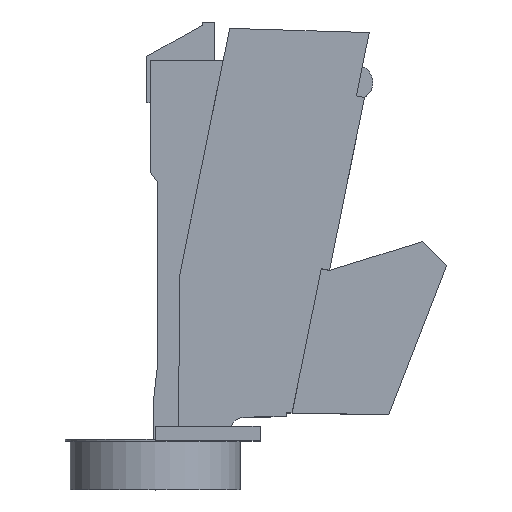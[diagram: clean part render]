
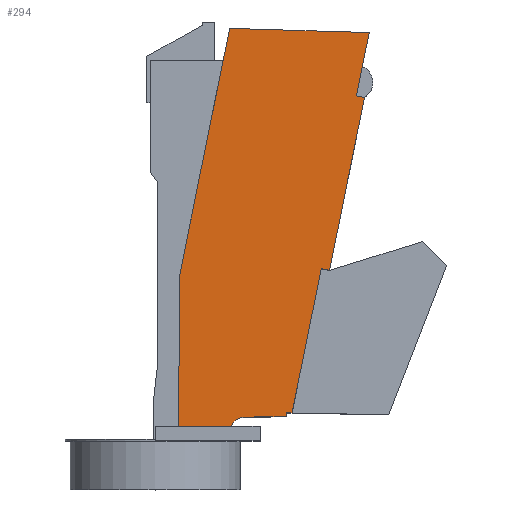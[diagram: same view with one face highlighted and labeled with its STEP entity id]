
A CAD part, top view. The second image highlights one B-rep face of the part: STEP entity #294.
In plain terms, the highlighted planar face has unit normal (0, 0, 1).
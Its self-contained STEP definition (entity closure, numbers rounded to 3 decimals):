
#294 = ADVANCED_FACE ( 'NONE', ( #613 ), #1653, .F. ) ;
#306 = LINE ( 'NONE', #978, #319 ) ;
#310 = LINE ( 'NONE', #969, #311 ) ;
#311 = VECTOR ( 'NONE', #970, 1000. ) ;
#319 = VECTOR ( 'NONE', #979, 1000. ) ;
#358 = VECTOR ( 'NONE', #936, 1000. ) ;
#359 = LINE ( 'NONE', #935, #358 ) ;
#576 = VECTOR ( 'NONE', #1742, 1000. ) ;
#582 = VECTOR ( 'NONE', #1736, 1000. ) ;
#583 = VECTOR ( 'NONE', #1734, 1000. ) ;
#584 = LINE ( 'NONE', #1733, #583 ) ;
#585 = VECTOR ( 'NONE', #1732, 1000. ) ;
#586 = LINE ( 'NONE', #1731, #585 ) ;
#587 = VECTOR ( 'NONE', #1730, 1000. ) ;
#588 = LINE ( 'NONE', #1729, #587 ) ;
#589 = VECTOR ( 'NONE', #1728, 1000. ) ;
#590 = LINE ( 'NONE', #1727, #589 ) ;
#591 = VECTOR ( 'NONE', #1726, 1000. ) ;
#592 = LINE ( 'NONE', #1725, #591 ) ;
#593 = VECTOR ( 'NONE', #1724, 1000. ) ;
#594 = LINE ( 'NONE', #1723, #593 ) ;
#596 = CIRCLE ( 'NONE', #1296, 3. ) ;
#597 = LINE ( 'NONE', #1735, #576 ) ;
#603 = VECTOR ( 'NONE', #1722, 1000. ) ;
#610 = LINE ( 'NONE', #1721, #582 ) ;
#613 = FACE_OUTER_BOUND ( 'NONE', #665, .T. ) ;
#618 = LINE ( 'NONE', #1719, #603 ) ;
#665 = EDGE_LOOP ( 'NONE', ( #786, #787, #788, #789, #809, #808, #783, #784, #785, #807, #805, #810, #756 ) ) ;
#756 = ORIENTED_EDGE ( 'NONE', *, *, #1151, .T. ) ;
#783 = ORIENTED_EDGE ( 'NONE', *, *, #1146, .T. ) ;
#784 = ORIENTED_EDGE ( 'NONE', *, *, #1148, .T. ) ;
#785 = ORIENTED_EDGE ( 'NONE', *, *, #1285, .F. ) ;
#786 = ORIENTED_EDGE ( 'NONE', *, *, #1144, .T. ) ;
#787 = ORIENTED_EDGE ( 'NONE', *, *, #1143, .T. ) ;
#788 = ORIENTED_EDGE ( 'NONE', *, *, #1138, .T. ) ;
#789 = ORIENTED_EDGE ( 'NONE', *, *, #1145, .T. ) ;
#805 = ORIENTED_EDGE ( 'NONE', *, *, #1281, .T. ) ;
#807 = ORIENTED_EDGE ( 'NONE', *, *, #1147, .F. ) ;
#808 = ORIENTED_EDGE ( 'NONE', *, *, #1264, .T. ) ;
#809 = ORIENTED_EDGE ( 'NONE', *, *, #1141, .T. ) ;
#810 = ORIENTED_EDGE ( 'NONE', *, *, #1142, .T. ) ;
#935 = CARTESIAN_POINT ( 'NONE',  ( 32.38, 5.786, 12.1 ) ) ;
#936 = DIRECTION ( 'NONE',  ( 1., -0.017, 0. ) ) ;
#969 = CARTESIAN_POINT ( 'NONE',  ( 48.023, 76.962, 12.1 ) ) ;
#970 = DIRECTION ( 'NONE',  ( 0.199, 0.98, 0. ) ) ;
#978 = CARTESIAN_POINT ( 'NONE',  ( 41.255, 35.057, 12.1 ) ) ;
#979 = DIRECTION ( 'NONE',  ( -0.199, -0.98, 0. ) ) ;
#1000 = CARTESIAN_POINT ( 'NONE',  ( 46.791, 70.889, 12.1 ) ) ;
#1007 = CARTESIAN_POINT ( 'NONE',  ( 20.765, 84.771, 12.1 ) ) ;
#1014 = CARTESIAN_POINT ( 'NONE',  ( 39.589, 35.395, 12.1 ) ) ;
#1015 = CARTESIAN_POINT ( 'NONE',  ( 32.38, 5.02, 12.1 ) ) ;
#1018 = CARTESIAN_POINT ( 'NONE',  ( 23.8, 4.92, 12.1 ) ) ;
#1020 = CARTESIAN_POINT ( 'NONE',  ( 10.242, 3., 12.1 ) ) ;
#1021 = CARTESIAN_POINT ( 'NONE',  ( 21.036, 3., 12.1 ) ) ;
#1023 = CARTESIAN_POINT ( 'NONE',  ( 10.52, 34.28, 12.1 ) ) ;
#1034 = CARTESIAN_POINT ( 'NONE',  ( 32.38, 5.786, 12.1 ) ) ;
#1061 = CARTESIAN_POINT ( 'NONE',  ( 33.577, 5.765, 12.1 ) ) ;
#1063 = CARTESIAN_POINT ( 'NONE',  ( 48.457, 70.551, 12.1 ) ) ;
#1069 = CARTESIAN_POINT ( 'NONE',  ( 41.255, 35.057, 12.1 ) ) ;
#1080 = CARTESIAN_POINT ( 'NONE',  ( 49.433, 83.91, 12.1 ) ) ;
#1138 = EDGE_CURVE ( 'NONE', #1401, #1398, #596, .T. ) ;
#1141 = EDGE_CURVE ( 'NONE', #1395, #1414, #618, .T. ) ;
#1142 = EDGE_CURVE ( 'NONE', #1460, #1386, #594, .T. ) ;
#1143 = EDGE_CURVE ( 'NONE', #1400, #1401, #592, .T. ) ;
#1144 = EDGE_CURVE ( 'NONE', #1403, #1400, #590, .T. ) ;
#1145 = EDGE_CURVE ( 'NONE', #1398, #1395, #588, .T. ) ;
#1146 = EDGE_CURVE ( 'NONE', #1441, #1394, #586, .T. ) ;
#1147 = EDGE_CURVE ( 'NONE', #1377, #1443, #584, .T. ) ;
#1148 = EDGE_CURVE ( 'NONE', #1394, #1449, #610, .T. ) ;
#1151 = EDGE_CURVE ( 'NONE', #1386, #1403, #597, .T. ) ;
#1264 = EDGE_CURVE ( 'NONE', #1414, #1441, #359, .T. ) ;
#1281 = EDGE_CURVE ( 'NONE', #1377, #1460, #310, .T. ) ;
#1285 = EDGE_CURVE ( 'NONE', #1443, #1449, #306, .T. ) ;
#1296 = AXIS2_PLACEMENT_3D ( 'NONE', #1713, #1714, #1715 ) ;
#1343 = AXIS2_PLACEMENT_3D ( 'NONE', #1656, #1665, #1666 ) ;
#1377 = VERTEX_POINT ( 'NONE', #1000 ) ;
#1386 = VERTEX_POINT ( 'NONE', #1007 ) ;
#1394 = VERTEX_POINT ( 'NONE', #1014 ) ;
#1395 = VERTEX_POINT ( 'NONE', #1015 ) ;
#1398 = VERTEX_POINT ( 'NONE', #1018 ) ;
#1400 = VERTEX_POINT ( 'NONE', #1020 ) ;
#1401 = VERTEX_POINT ( 'NONE', #1021 ) ;
#1403 = VERTEX_POINT ( 'NONE', #1023 ) ;
#1414 = VERTEX_POINT ( 'NONE', #1034 ) ;
#1441 = VERTEX_POINT ( 'NONE', #1061 ) ;
#1443 = VERTEX_POINT ( 'NONE', #1063 ) ;
#1449 = VERTEX_POINT ( 'NONE', #1069 ) ;
#1460 = VERTEX_POINT ( 'NONE', #1080 ) ;
#1653 = PLANE ( 'NONE',  #1343 ) ;
#1656 = CARTESIAN_POINT ( 'NONE',  ( 23.835, 1.92, 12.1 ) ) ;
#1665 = DIRECTION ( 'NONE',  ( 0., 0., -1. ) ) ;
#1666 = DIRECTION ( 'NONE',  ( -1., 0., 0. ) ) ;
#1713 = CARTESIAN_POINT ( 'NONE',  ( 23.835, 1.92, 12.1 ) ) ;
#1714 = DIRECTION ( 'NONE',  ( 0., 0., -1. ) ) ;
#1715 = DIRECTION ( 'NONE',  ( -1., 0., 0. ) ) ;
#1719 = CARTESIAN_POINT ( 'NONE',  ( 32.38, 5.02, 12.1 ) ) ;
#1721 = CARTESIAN_POINT ( 'NONE',  ( 3.759, 42.665, 12.1 ) ) ;
#1722 = DIRECTION ( 'NONE',  ( 0., 1., 0. ) ) ;
#1723 = CARTESIAN_POINT ( 'NONE',  ( 49.433, 83.91, 12.1 ) ) ;
#1724 = DIRECTION ( 'NONE',  ( -1., 0.03, 0. ) ) ;
#1725 = CARTESIAN_POINT ( 'NONE',  ( 23.835, 3., 12.1 ) ) ;
#1726 = DIRECTION ( 'NONE',  ( 1., 0., 0. ) ) ;
#1727 = CARTESIAN_POINT ( 'NONE',  ( 10.52, 34.28, 12.1 ) ) ;
#1728 = DIRECTION ( 'NONE',  ( -0.009, -1., 0. ) ) ;
#1729 = CARTESIAN_POINT ( 'NONE',  ( 23.8, 4.92, 12.1 ) ) ;
#1730 = DIRECTION ( 'NONE',  ( 1., 0.012, 0. ) ) ;
#1731 = CARTESIAN_POINT ( 'NONE',  ( 48.023, 76.962, 12.1 ) ) ;
#1732 = DIRECTION ( 'NONE',  ( 0.199, 0.98, 0. ) ) ;
#1733 = CARTESIAN_POINT ( 'NONE',  ( 10.961, 78.159, 12.1 ) ) ;
#1734 = DIRECTION ( 'NONE',  ( 0.98, -0.199, 0. ) ) ;
#1735 = CARTESIAN_POINT ( 'NONE',  ( 20.765, 84.771, 12.1 ) ) ;
#1736 = DIRECTION ( 'NONE',  ( 0.98, -0.199, 0. ) ) ;
#1742 = DIRECTION ( 'NONE',  ( -0.199, -0.98, 0. ) ) ;
